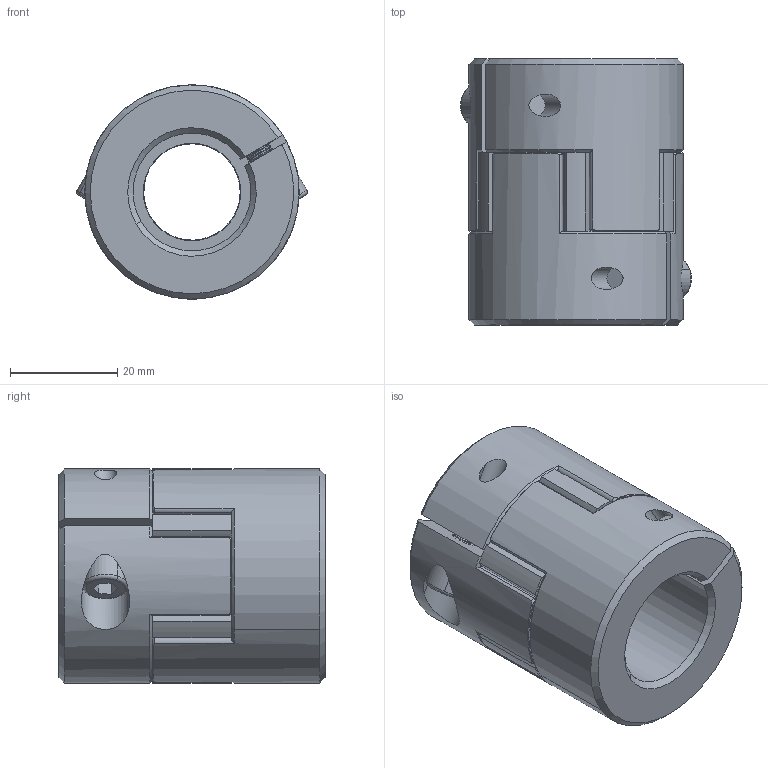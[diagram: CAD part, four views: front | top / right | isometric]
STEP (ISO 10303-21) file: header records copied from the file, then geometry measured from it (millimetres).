
FILE_DESCRIPTION (( 'STEP AP203' ), '1' );
FILE_NAME ('LF-B-D40L50-18-22.STEP', '2021-10-25T03:13:26', ( '' ), ( '' ), 'SwSTEP 2.0', 'SolidWorks 2018', '' );
FILE_SCHEMA (( 'CONFIG_CONTROL_DESIGN' ));
Length unit declared in the file: millimetre
Products named in the file (1): LF-B-D40L50-18-22
Bounding box: 43.11 x 49.7 x 40 mm (x, y, z)
Volume: 45965.5 mm3; surface area: 14677.5 mm2
Topology: 1 solids, 7 shells, 470 faces, 1113 edges, 660 vertices
Faces by surface type: cone 170, cylinder 169, plane 127, torus 4
Entity records: 13932 total; most frequent: CARTESIAN_POINT 2888, DIRECTION 2501, ORIENTED_EDGE 2218, EDGE_CURVE 1109, AXIS2_PLACEMENT_3D 1037, VERTEX_POINT 660, CIRCLE 566, EDGE_LOOP 487
